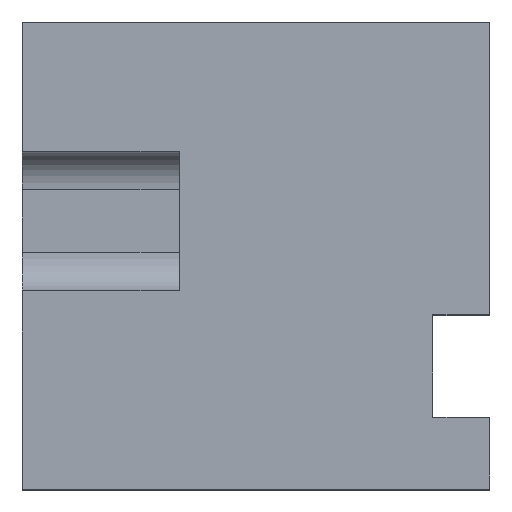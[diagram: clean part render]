
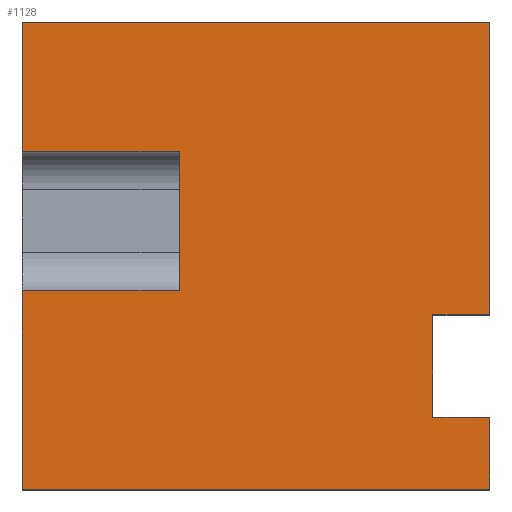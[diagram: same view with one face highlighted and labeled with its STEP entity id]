
A CAD part, top view. The second image highlights one B-rep face of the part: STEP entity #1128.
In plain terms, the highlighted planar face has unit normal (0, 0, 1).
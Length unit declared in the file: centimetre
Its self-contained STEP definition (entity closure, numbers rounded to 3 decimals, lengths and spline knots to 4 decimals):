
#14 = EDGE_CURVE ( 'NONE', #307, #573, #801, .T. ) ;
#39 = VECTOR ( 'NONE', #522, 100. ) ;
#41 = CARTESIAN_POINT ( 'NONE',  ( 335.5968, 424.3135, 1000. ) ) ;
#54 = EDGE_CURVE ( 'NONE', #172, #433, #310, .T. ) ;
#56 = VECTOR ( 'NONE', #447, 100. ) ;
#57 = DIRECTION ( 'NONE',  ( 0., 1., 0. ) ) ;
#73 = LINE ( 'NONE', #499, #762 ) ;
#88 = VERTEX_POINT ( 'NONE', #567 ) ;
#150 = ORIENTED_EDGE ( 'NONE', *, *, #935, .F. ) ;
#156 = LINE ( 'NONE', #1056, #39 ) ;
#158 = LINE ( 'NONE', #951, #237 ) ;
#159 = EDGE_CURVE ( 'NONE', #573, #172, #452, .T. ) ;
#172 = VERTEX_POINT ( 'NONE', #189 ) ;
#189 = CARTESIAN_POINT ( 'NONE',  ( 878.4466, 154.0462, 1000. ) ) ;
#193 = VERTEX_POINT ( 'NONE', #429 ) ;
#212 = LINE ( 'NONE', #563, #965 ) ;
#215 = EDGE_CURVE ( 'NONE', #1144, #88, #1152, .T. ) ;
#226 = DIRECTION ( 'NONE',  ( 0., 1., 0. ) ) ;
#231 = ORIENTED_EDGE ( 'NONE', *, *, #1052, .T. ) ;
#237 = VECTOR ( 'NONE', #1060, 100. ) ;
#249 = CARTESIAN_POINT ( 'NONE',  ( 878.4466, 373.4398, 1000. ) ) ;
#258 = DIRECTION ( 'NONE',  ( 1., 0., 0. ) ) ;
#266 = CARTESIAN_POINT ( 'NONE',  ( 878.4466, 373.4398, 1000. ) ) ;
#294 = EDGE_CURVE ( 'NONE', #1010, #88, #156, .T. ) ;
#307 = VERTEX_POINT ( 'NONE', #876 ) ;
#310 = LINE ( 'NONE', #755, #381 ) ;
#316 = CARTESIAN_POINT ( 'NONE',  ( 1000., 373.4398, 1000. ) ) ;
#342 = ORIENTED_EDGE ( 'NONE', *, *, #668, .T. ) ;
#346 = LINE ( 'NONE', #249, #912 ) ;
#347 = CARTESIAN_POINT ( 'NONE',  ( 878.4466, 154.0462, 1000. ) ) ;
#369 = EDGE_LOOP ( 'NONE', ( #757, #772, #1007, #342, #501, #937, #706, #835, #150, #944, #231, #1045 ) ) ;
#381 = VECTOR ( 'NONE', #226, 100. ) ;
#408 = DIRECTION ( 'NONE',  ( 0., 0., 1. ) ) ;
#429 = CARTESIAN_POINT ( 'NONE',  ( 0., 424.3135, 1000. ) ) ;
#433 = VERTEX_POINT ( 'NONE', #266 ) ;
#439 = AXIS2_PLACEMENT_3D ( 'NONE', #608, #408, #258 ) ;
#447 = DIRECTION ( 'NONE',  ( 0., 1., 0. ) ) ;
#452 = LINE ( 'NONE', #347, #685 ) ;
#482 = EDGE_CURVE ( 'NONE', #526, #1144, #808, .T. ) ;
#499 = CARTESIAN_POINT ( 'NONE',  ( 0., 1000., 1000. ) ) ;
#501 = ORIENTED_EDGE ( 'NONE', *, *, #482, .T. ) ;
#515 = VERTEX_POINT ( 'NONE', #41 ) ;
#522 = DIRECTION ( 'NONE',  ( -1., 0., 0. ) ) ;
#526 = VERTEX_POINT ( 'NONE', #934 ) ;
#547 = DIRECTION ( 'NONE',  ( -1., 0., 0. ) ) ;
#557 = CARTESIAN_POINT ( 'NONE',  ( 0., 1000., 1000. ) ) ;
#563 = CARTESIAN_POINT ( 'NONE',  ( 0., 0., 1000. ) ) ;
#567 = CARTESIAN_POINT ( 'NONE',  ( 0., 723.8435, 1000. ) ) ;
#573 = VERTEX_POINT ( 'NONE', #1103 ) ;
#606 = DIRECTION ( 'NONE',  ( 1., 0., 0. ) ) ;
#608 = CARTESIAN_POINT ( 'NONE',  ( 0., 0., 1000. ) ) ;
#615 = LINE ( 'NONE', #852, #842 ) ;
#646 = VECTOR ( 'NONE', #914, 100. ) ;
#652 = EDGE_CURVE ( 'NONE', #193, #1055, #73, .T. ) ;
#668 = EDGE_CURVE ( 'NONE', #1100, #526, #158, .T. ) ;
#685 = VECTOR ( 'NONE', #547, 100. ) ;
#702 = VECTOR ( 'NONE', #606, 100. ) ;
#704 = CARTESIAN_POINT ( 'NONE',  ( 0., 1000., 1000. ) ) ;
#705 = CARTESIAN_POINT ( 'NONE',  ( 0., 1000., 1000. ) ) ;
#706 = ORIENTED_EDGE ( 'NONE', *, *, #294, .F. ) ;
#710 = EDGE_CURVE ( 'NONE', #515, #1010, #615, .T. ) ;
#711 = DIRECTION ( 'NONE',  ( 1., 0., 0. ) ) ;
#719 = DIRECTION ( 'NONE',  ( 0., -1., 0. ) ) ;
#731 = DIRECTION ( 'NONE',  ( 1., 0., 0. ) ) ;
#739 = CARTESIAN_POINT ( 'NONE',  ( 0., 0., 1000. ) ) ;
#755 = CARTESIAN_POINT ( 'NONE',  ( 878.4466, 154.0462, 1000. ) ) ;
#757 = ORIENTED_EDGE ( 'NONE', *, *, #159, .T. ) ;
#762 = VECTOR ( 'NONE', #788, 100. ) ;
#772 = ORIENTED_EDGE ( 'NONE', *, *, #54, .T. ) ;
#788 = DIRECTION ( 'NONE',  ( 0., -1., 0. ) ) ;
#801 = LINE ( 'NONE', #1095, #56 ) ;
#806 = LINE ( 'NONE', #892, #702 ) ;
#808 = LINE ( 'NONE', #557, #646 ) ;
#835 = ORIENTED_EDGE ( 'NONE', *, *, #710, .F. ) ;
#842 = VECTOR ( 'NONE', #57, 100. ) ;
#852 = CARTESIAN_POINT ( 'NONE',  ( 335.5968, 0., 1000. ) ) ;
#876 = CARTESIAN_POINT ( 'NONE',  ( 1000., 0., 1000. ) ) ;
#892 = CARTESIAN_POINT ( 'NONE',  ( 335.5968, 424.3135, 1000. ) ) ;
#912 = VECTOR ( 'NONE', #711, 100. ) ;
#914 = DIRECTION ( 'NONE',  ( -1., 0., 0. ) ) ;
#918 = EDGE_CURVE ( 'NONE', #433, #1100, #346, .T. ) ;
#934 = CARTESIAN_POINT ( 'NONE',  ( 1000., 1000., 1000. ) ) ;
#935 = EDGE_CURVE ( 'NONE', #193, #515, #806, .T. ) ;
#937 = ORIENTED_EDGE ( 'NONE', *, *, #215, .T. ) ;
#944 = ORIENTED_EDGE ( 'NONE', *, *, #652, .T. ) ;
#951 = CARTESIAN_POINT ( 'NONE',  ( 1000., 1000., 1000. ) ) ;
#965 = VECTOR ( 'NONE', #731, 100. ) ;
#1007 = ORIENTED_EDGE ( 'NONE', *, *, #918, .T. ) ;
#1010 = VERTEX_POINT ( 'NONE', #1161 ) ;
#1045 = ORIENTED_EDGE ( 'NONE', *, *, #14, .T. ) ;
#1052 = EDGE_CURVE ( 'NONE', #1055, #307, #212, .T. ) ;
#1054 = FACE_OUTER_BOUND ( 'NONE', #369, .T. ) ;
#1055 = VERTEX_POINT ( 'NONE', #739 ) ;
#1056 = CARTESIAN_POINT ( 'NONE',  ( 335.5968, 723.8435, 1000. ) ) ;
#1060 = DIRECTION ( 'NONE',  ( 0., 1., 0. ) ) ;
#1095 = CARTESIAN_POINT ( 'NONE',  ( 1000., 1000., 1000. ) ) ;
#1100 = VERTEX_POINT ( 'NONE', #316 ) ;
#1103 = CARTESIAN_POINT ( 'NONE',  ( 1000., 154.0462, 1000. ) ) ;
#1128 = ADVANCED_FACE ( 'NONE', ( #1054 ), #1154, .T. ) ;
#1139 = VECTOR ( 'NONE', #719, 100. ) ;
#1144 = VERTEX_POINT ( 'NONE', #705 ) ;
#1152 = LINE ( 'NONE', #704, #1139 ) ;
#1154 = PLANE ( 'NONE',  #439 ) ;
#1161 = CARTESIAN_POINT ( 'NONE',  ( 335.5968, 723.8435, 1000. ) ) ;
